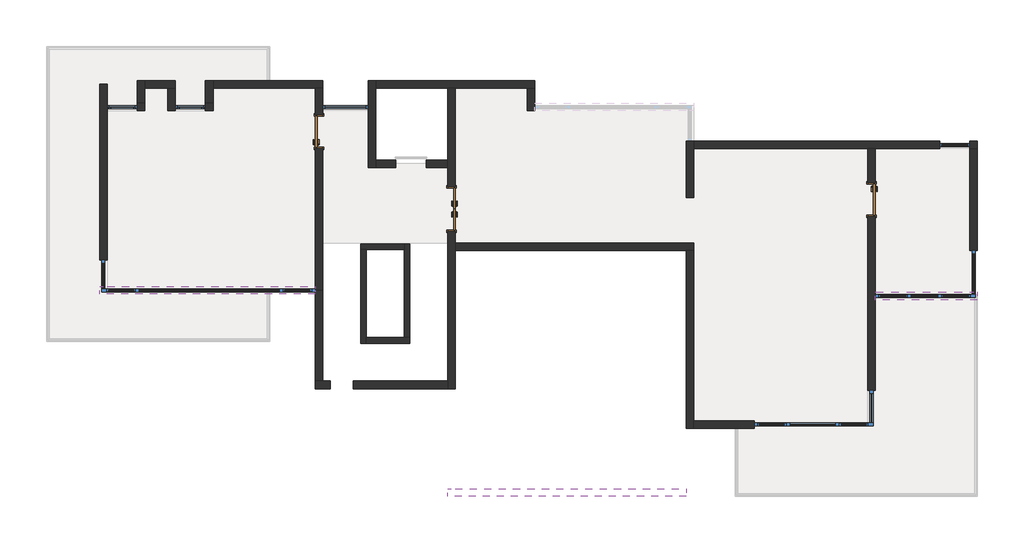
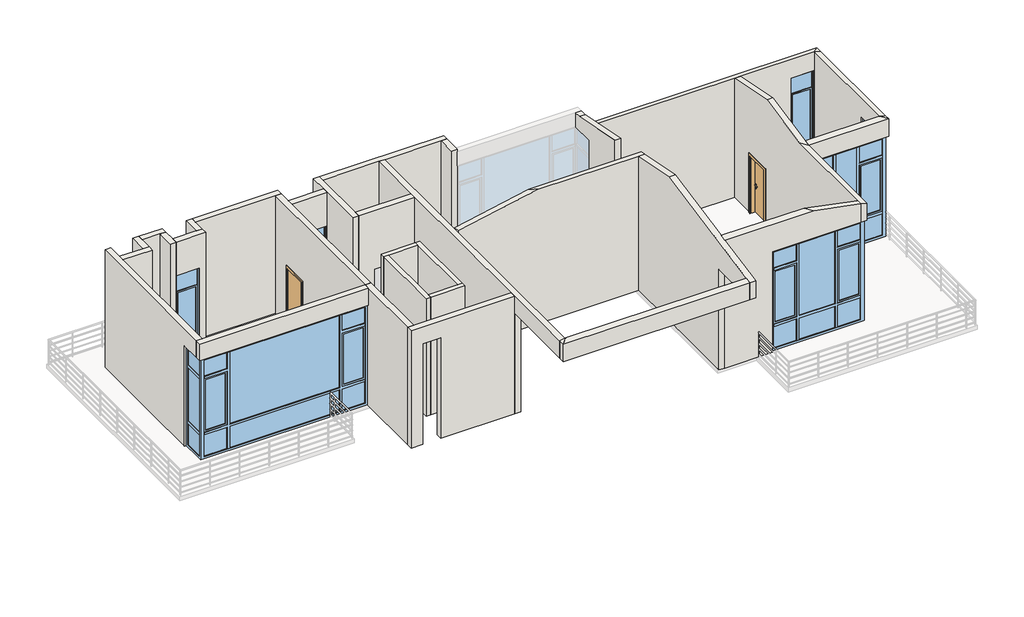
# One storey, part 1 of 3: 31 walls, 7 windows, 3 doors.
"""IFC4 building model written with IfcOpenShell, lengths in millimetres."""

from ifc_helpers import new_model, si_unit, frame, origin, place, context, project, spatial, polyline, outline, extrude, faceted_brep, transform, mapped, element, save
from components import m0921_482f5408, m1221_627b48e9, c0830_e6cf9a24, c0836_5eae927b, c1230_67e573e4, zjc_08_56_36_e4592b0d, zjc_26_12_36_c5fe944f, zjc_31_09_36_b1df3ee7

model = new_model("IFC4")

# Units and contexts
model_context = context("Model", 3, world=origin())
ifc_project = project(units=[si_unit("LENGTHUNIT", "METRE", prefix="MILLI")], contexts=[model_context])

# Site, building, storey
site = spatial("IfcSite", under=ifc_project)
building = spatial("IfcBuilding", under=site)
storey = spatial("IfcBuildingStorey", under=building, Name="二层", Elevation=3900.0)

# Doors
placement = place(None, origin())
m0921_shape = m0921_482f5408(model_context)
element("IfcDoor", 1, ObjectType="单嵌板木门 1 : M0921", at=placement, inside=storey, context=model_context, shape_type="MappedRepresentation", body=[
    mapped(m0921_shape, transform((12309.0524305, -2071.4172231, 3900.0), x_axis=(0.0, -1.0, 0.0), y_axis=(1.0, 0.0, 0.0), z_axis=(0.0, 0.0, 1.0))),
])
element("IfcDoor", 2, ObjectType="单嵌板木门 1 : M0921", at=placement, inside=storey, context=model_context, shape_type="MappedRepresentation", body=[
    mapped(m0921_shape, transform((-2290.9475695, -271.4172231, 3900.0), x_axis=(0.0, 1.0, 0.0), y_axis=(-1.0, 0.0, 0.0), z_axis=(0.0, 0.0, 1.0))),
])
m1221_shape = m1221_627b48e9(model_context)
element("IfcDoor", 3, ObjectType="双面嵌板木门 1 : M1221", at=placement, inside=storey, context=model_context, shape_type="MappedRepresentation", body=[
    mapped(m1221_shape, transform((1209.0524305, -2321.4172231, 3900.0), x_axis=(0.0, -1.0, 0.0), y_axis=(1.0, 0.0, 0.0), z_axis=(0.0, 0.0, 1.0))),
])

# Walls
element("IfcWall", 4, ObjectType="外墙", at=placement, inside=storey, context=model_context, shape_type="Brep", body=[
    faceted_brep([(12209.0524305, -8121.4172231, 7500.0), (12209.0524305, -8121.4172231, 8156.0336558), (12209.0524305, -7921.4172231, 8156.0336558), (12209.0524305, -4521.4172231, 8156.0336558), (12209.0524305, -2621.4172231, 8536.0359846), (12209.0524305, -721.4172231, 8156.0336558), (12209.0524305, -721.4172231, 3900.0), (12209.0524305, -1621.4172231, 3900.0), (12209.0524305, -1621.4172231, 6000.0), (12209.0524305, -2521.4172231, 6000.0), (12209.0524305, -2521.4172231, 3900.0), (12209.0524305, -7121.4172231, 3900.0), (12209.0524305, -7121.4172231, 7500.0), (12209.0524305, -7921.4172231, 7500.0), (12409.0524305, -8121.4172231, 8116.0334106), (12409.0524305, -8121.4172231, 7500.0), (12409.0524305, -7121.4172231, 7500.0), (12409.0524305, -7121.4172231, 3900.0), (12409.0524305, -2521.4172231, 3900.0), (12409.0524305, -2521.4172231, 6000.0), (12409.0524305, -1621.4172231, 6000.0), (12409.0524305, -1621.4172231, 3900.0), (12409.0524305, -721.4172231, 3900.0), (12409.0524305, -721.4172231, 8156.0336558), (12409.0524305, -2621.4172231, 8536.0359846), (12409.0524305, -4521.4172231, 8156.0336558), (12409.0524305, -4721.4172231, 8116.0334106)], [[[0, 1, 2, 3, 4, 5, 6, 7, 8, 9, 10, 11, 12, 13]], [[14, 15, 16, 17, 18, 19, 20, 21, 22, 23, 24, 25, 26]], [[1, 0, 15, 14]], [[6, 5, 23, 22]], [[5, 4, 24, 23]], [[4, 3, 26, 25, 24]], [[3, 2, 1, 14, 26]], [[6, 22, 21, 7]], [[17, 11, 10, 18]], [[12, 11, 17, 16]], [[0, 13, 12, 16, 15]], [[9, 19, 18, 10]], [[19, 9, 8, 20]], [[20, 8, 7, 21]]]),
])
element("IfcWall", 5, ObjectType="外墙", at=placement, inside=storey, context=model_context, shape_type="Brep", body=[
    faceted_brep([(12209.0524305, -7921.4172231, 7500.0), (9209.0524305, -7921.4172231, 7500.0), (9209.0524305, -7921.4172231, 3900.0), (7609.0524305, -7921.4172231, 3900.0), (7609.0524305, -7921.4172231, 8516.035862), (10409.0524305, -7921.4172231, 8516.035862), (12209.0524305, -7921.4172231, 8156.0336558), (12209.0524305, -8121.4172231, 7500.0), (12209.0524305, -8121.4172231, 8156.0336558), (10609.0524305, -8121.4172231, 8476.0356169), (7609.0524305, -8121.4172231, 8476.0356169), (7609.0524305, -8121.4172231, 7500.0), (7609.0524305, -8121.4172231, 3900.0), (9209.0524305, -8121.4172231, 3900.0), (9209.0524305, -8121.4172231, 7500.0)], [[[0, 1, 2, 3, 4, 5, 6]], [[7, 8, 9, 10, 11, 12, 13, 14]], [[0, 6, 8, 7]], [[6, 5, 9, 8]], [[5, 4, 10, 9]], [[3, 2, 13, 12]], [[1, 0, 7, 14]], [[2, 1, 14, 13]], [[3, 12, 11, 10, 4]]]),
])
element("IfcWall", 6, ObjectType="外墙", at=placement, inside=storey, context=model_context, shape_type="Brep", body=[
    faceted_brep([(7409.0524305, 278.5827769, 7500.0), (7409.0524305, -521.4172231, 7500.0), (7409.0524305, -521.4172231, 3900.0), (7409.0524305, -2021.4172231, 3900.0), (7409.0524305, -2021.4172231, 8416.0352492), (7409.0524305, 58.7848836, 7999.9922781), (7409.0524305, 278.5827769, 7999.9922781), (7609.0524305, 278.5827769, 7500.0), (7609.0524305, 278.5827769, 7999.9922781), (7609.0524305, 58.7848836, 7999.9922781), (7609.0524305, -521.4172231, 8116.0334106), (7609.0524305, -721.4172231, 8156.0336558), (7609.0524305, -2021.4172231, 8416.0352492), (7609.0524305, -2021.4172231, 3900.0), (7609.0524305, -721.4172231, 3900.0), (7609.0524305, -521.4172231, 3900.0), (7609.0524305, -521.4172231, 7500.0)], [[[0, 1, 2, 3, 4, 5, 6]], [[7, 8, 9, 10, 11, 12, 13, 14, 15, 16]], [[0, 6, 8, 7]], [[6, 5, 9, 8]], [[5, 4, 12, 11, 10, 9]], [[3, 2, 15, 14, 13]], [[4, 3, 13, 12]], [[1, 0, 7, 16]], [[2, 1, 16, 15]]]),
])
element("IfcWall", 7, ObjectType="外墙", at=placement, inside=storey, context=model_context, shape_type="Brep", body=[
    faceted_brep([(7409.0524305, -9721.4172231, 7500.0), (1309.0524305, -9721.4172231, 7500.0), (1109.0524305, -9721.4172231, 7500.0), (1109.0524305, -9721.4172231, 8100.0), (1109.0524305, -9721.4172231, 8116.0334106), (1309.0524305, -9721.4172231, 8156.0336558), (7409.0524305, -9721.4172231, 8156.0336558), (7409.0524305, -9921.4172231, 7500.0), (7409.0524305, -9921.4172231, 8116.0334106), (1109.0524305, -9921.4172231, 8116.0334106), (1109.0524305, -9921.4172231, 7500.0)], [[[0, 1, 2, 3, 4, 5, 6]], [[7, 8, 9, 10]], [[0, 6, 8, 7]], [[4, 3, 2, 10, 9]], [[6, 5, 9, 8]], [[5, 4, 9]], [[2, 1, 0, 7, 10]]]),
])
element("IfcWall", 8, ObjectType="外墙", at=placement, inside=storey, context=model_context, shape_type="Brep", body=[
    faceted_brep([(1309.0524305, 878.5827769, 8100.0), (1309.0524305, -9721.4172231, 8100.0), (1309.0524305, -9721.4172231, 7500.0), (1309.0524305, -7071.4172231, 7500.0), (1309.0524305, -7071.4172231, 3900.0), (1309.0524305, -3421.4172231, 3900.0), (1309.0524305, -3221.4172231, 3900.0), (1309.0524305, -2921.4172231, 3900.0), (1309.0524305, -2921.4172231, 6000.0), (1309.0524305, -1721.4172231, 6000.0), (1309.0524305, -1721.4172231, 3900.0), (1309.0524305, 878.5827769, 3900.0), (1109.0524305, -9721.4172231, 8100.0), (1109.0524305, -7071.4172231, 8100.0), (1109.0524305, -6871.4172231, 8100.0), (1109.0524305, -1221.4172231, 8100.0), (1109.0524305, -1021.4172231, 8100.0), (1109.0524305, 878.5827769, 8100.0), (1109.0524305, 878.5827769, 3900.0), (1109.0524305, -1021.4172231, 3900.0), (1109.0524305, -1221.4172231, 3900.0), (1109.0524305, -1721.4172231, 3900.0), (1109.0524305, -1721.4172231, 6000.0), (1109.0524305, -2921.4172231, 6000.0), (1109.0524305, -2921.4172231, 3900.0), (1109.0524305, -6871.4172231, 3900.0), (1109.0524305, -7071.4172231, 3900.0), (1109.0524305, -7071.4172231, 7500.0), (1109.0524305, -9721.4172231, 7500.0)], [[[0, 1, 2, 3, 4, 5, 6, 7, 8, 9, 10, 11]], [[12, 13, 14, 15, 16, 17, 18, 19, 20, 21, 22, 23, 24, 25, 26, 27, 28]], [[18, 11, 10, 21, 20, 19]], [[4, 26, 25, 24, 7, 6, 5]], [[1, 0, 17, 16, 15, 14, 13, 12]], [[1, 12, 28, 2]], [[0, 11, 18, 17]], [[3, 27, 26, 4]], [[27, 3, 2, 28]], [[23, 8, 7, 24]], [[8, 23, 22, 9]], [[9, 22, 21, 10]]]),
])
element("IfcWall", 9, ObjectType="外墙", at=placement, inside=storey, context=model_context, shape_type="Brep", body=[
    faceted_brep([(-2390.9475695, -6871.4172231, 8100.0), (-2190.9475695, -6871.4172231, 8100.0), (1109.0524305, -6871.4172231, 8100.0), (1109.0524305, -6871.4172231, 3900.0), (-1390.9475695, -6871.4172231, 3900.0), (-1390.9475695, -6871.4172231, 7500.0), (-1990.9475695, -6871.4172231, 7500.0), (-1990.9475695, -6871.4172231, 3900.0), (-2190.9475695, -6871.4172231, 3900.0), (-2390.9475695, -6871.4172231, 3900.0), (1109.0524305, -7071.4172231, 8100.0), (-2390.9475695, -7071.4172231, 8100.0), (-2390.9475695, -7071.4172231, 3900.0), (-1990.9475695, -7071.4172231, 3900.0), (-1990.9475695, -7071.4172231, 7500.0), (-1390.9475695, -7071.4172231, 7500.0), (-1390.9475695, -7071.4172231, 3900.0), (1109.0524305, -7071.4172231, 3900.0)], [[[0, 1, 2, 3, 4, 5, 6, 7, 8, 9]], [[10, 11, 12, 13, 14, 15, 16, 17]], [[12, 9, 8, 7, 13]], [[3, 17, 16, 4]], [[2, 1, 0, 11, 10]], [[0, 9, 12, 11]], [[3, 2, 10, 17]], [[6, 14, 13, 7]], [[14, 6, 5, 15]], [[15, 5, 4, 16]]]),
])
element("IfcWall", 10, ObjectType="外墙", at=placement, inside=storey, context=model_context, shape_type="Brep", body=[
    faceted_brep([(-2190.9475695, -6871.4172231, 3900.0), (-2190.9475695, -4471.4172231, 3900.0), (-2190.9475695, -4471.4172231, 7500.0), (-2190.9475695, -4371.4172231, 7500.0), (-2190.9475695, -4371.4172231, 8100.0), (-2190.9475695, -6871.4172231, 8100.0), (-2390.9475695, -6871.4172231, 3900.0), (-2390.9475695, -6871.4172231, 8100.0), (-2390.9475695, -4571.4172231, 8100.0), (-2390.9475695, -4371.4172231, 8100.0), (-2390.9475695, -4371.4172231, 7500.0), (-2390.9475695, -4471.4172231, 7500.0), (-2390.9475695, -4471.4172231, 3900.0)], [[[0, 1, 2, 3, 4, 5]], [[6, 7, 8, 9, 10, 11, 12]], [[1, 0, 6, 12]], [[5, 4, 9, 8, 7]], [[0, 5, 7, 6]], [[2, 1, 12, 11]], [[10, 3, 2, 11]], [[4, 3, 10, 9]]]),
])
element("IfcWall", 11, ObjectType="外墙", at=placement, inside=storey, context=model_context, shape_type="Brep", body=[
    faceted_brep([(-2390.9475695, -4371.4172231, 7500.0), (-7890.9475695, -4371.4172231, 7500.0), (-8090.9475695, -4371.4172231, 7500.0), (-8090.9475695, -4371.4172231, 8100.0), (-7890.9475695, -4371.4172231, 8100.0), (-2390.9475695, -4371.4172231, 8100.0), (-2390.9475695, -4571.4172231, 7500.0), (-2390.9475695, -4571.4172231, 8100.0), (-8090.9475695, -4571.4172231, 8100.0), (-8090.9475695, -4571.4172231, 7500.0), (-2390.9475695, -4471.4172231, 7500.0)], [[[0, 1, 2, 3, 4, 5]], [[6, 7, 8, 9]], [[0, 5, 7, 6, 10]], [[3, 2, 9, 8]], [[5, 4, 3, 8, 7]], [[2, 1, 0, 10, 6, 9]]]),
])
element("IfcWall", 12, ObjectType="外墙", at=placement, inside=storey, context=model_context, shape_type="Brep", body=[
    faceted_brep([(-7890.9475695, -4371.4172231, 7500.0), (-7890.9475695, -3671.4172231, 7500.0), (-7890.9475695, -3671.4172231, 3900.0), (-7890.9475695, 278.5827769, 3900.0), (-7890.9475695, 478.5827769, 3900.0), (-7890.9475695, 978.5827769, 3900.0), (-7890.9475695, 978.5827769, 8100.0), (-7890.9475695, 478.5827769, 8100.0), (-7890.9475695, 278.5827769, 8100.0), (-7890.9475695, -4371.4172231, 8100.0), (-8090.9475695, -4371.4172231, 7500.0), (-8090.9475695, -4371.4172231, 8100.0), (-8090.9475695, 978.5827769, 8100.0), (-8090.9475695, 978.5827769, 3900.0), (-8090.9475695, -3671.4172231, 3900.0), (-8090.9475695, -3671.4172231, 7500.0)], [[[0, 1, 2, 3, 4, 5, 6, 7, 8, 9]], [[10, 11, 12, 13, 14, 15]], [[0, 9, 11, 10]], [[5, 4, 3, 2, 14, 13]], [[6, 5, 13, 12]], [[9, 8, 7, 6, 12, 11]], [[1, 0, 10, 15]], [[2, 1, 15, 14]]]),
])
element("IfcWall", 13, ObjectType="外墙", at=placement, inside=storey, context=model_context, shape_type="Brep", body=[
    faceted_brep([(-6890.9475695, 278.5827769, 8100.0), (-7890.9475695, 278.5827769, 8100.0), (-7890.9475695, 278.5827769, 3900.0), (-7890.6982006, 278.5827769, 3900.0), (-7890.6982006, 278.5827769, 6900.0), (-7090.6982006, 278.5827769, 6900.0), (-7090.6982006, 278.5827769, 3900.0), (-6890.9475695, 278.5827769, 3900.0), (-7890.9475695, 478.5827769, 8100.0), (-7090.9475695, 478.5827769, 8100.0), (-6890.9475695, 478.5827769, 8100.0), (-6890.9475695, 478.5827769, 3900.0), (-7090.6982006, 478.5827769, 3900.0), (-7090.6982006, 478.5827769, 6900.0), (-7890.6982006, 478.5827769, 6900.0), (-7890.6982006, 478.5827769, 3900.0), (-7890.9475695, 478.5827769, 3900.0)], [[[0, 1, 2, 3, 4, 5, 6, 7]], [[8, 9, 10, 11, 12, 13, 14, 15, 16]], [[2, 16, 15, 3]], [[11, 7, 6, 12]], [[1, 0, 10, 9, 8]], [[2, 1, 8, 16]], [[0, 7, 11, 10]], [[14, 4, 3, 15]], [[4, 14, 13, 5]], [[5, 13, 12, 6]]]),
])
element("IfcWall", 14, ObjectType="外墙", at=placement, inside=storey, context=model_context, shape_type="Brep", body=[
    faceted_brep([(-6890.9475695, 478.5827769, 3900.0), (-6890.9475695, 878.5827769, 3900.0), (-6890.9475695, 1078.5827769, 3900.0), (-6890.9475695, 1078.5827769, 8100.0), (-6890.9475695, 878.5827769, 8100.0), (-6890.9475695, 478.5827769, 8100.0), (-7090.9475695, 478.5827769, 3900.0), (-7090.9475695, 478.5827769, 8100.0), (-7090.9475695, 1078.5827769, 8100.0), (-7090.9475695, 1078.5827769, 3900.0)], [[[0, 1, 2, 3, 4, 5]], [[6, 7, 8, 9]], [[2, 1, 0, 6, 9]], [[5, 4, 3, 8, 7]], [[0, 5, 7, 6]], [[3, 2, 9, 8]]]),
])
element("IfcWall", 15, ObjectType="外墙", at=placement, inside=storey, context=model_context, shape_type="Brep", body=[
    faceted_brep([(-6890.9475695, 878.5827769, 3900.0), (-6290.9475695, 878.5827769, 3900.0), (-6090.9475695, 878.5827769, 3900.0), (-6090.9475695, 878.5827769, 8100.0), (-6290.9475695, 878.5827769, 8100.0), (-6890.9475695, 878.5827769, 8100.0), (-6890.9475695, 1078.5827769, 3900.0), (-6890.9475695, 1078.5827769, 8100.0), (-6090.9475695, 1078.5827769, 8100.0), (-6090.9475695, 1078.5827769, 3900.0)], [[[0, 1, 2, 3, 4, 5]], [[6, 7, 8, 9]], [[2, 1, 0, 6, 9]], [[5, 4, 3, 8, 7]], [[0, 5, 7, 6]], [[3, 2, 9, 8]]]),
])
element("IfcWall", 16, ObjectType="外墙", at=placement, inside=storey, context=model_context, shape_type="Brep", body=[
    faceted_brep([(-6290.9475695, 878.5827769, 3900.0), (-6290.9475695, 278.5827769, 3900.0), (-6290.9475695, 278.5827769, 8100.0), (-6290.9475695, 878.5827769, 8100.0), (-6090.9475695, 878.5827769, 3900.0), (-6090.9475695, 878.5827769, 8100.0), (-6090.9475695, 478.5827769, 8100.0), (-6090.9475695, 278.5827769, 8100.0), (-6090.9475695, 278.5827769, 3900.0), (-6090.9475695, 478.5827769, 3900.0)], [[[0, 1, 2, 3]], [[4, 5, 6, 7, 8, 9]], [[1, 0, 4, 9, 8]], [[3, 2, 7, 6, 5]], [[0, 3, 5, 4]], [[2, 1, 8, 7]]]),
])
element("IfcWall", 17, ObjectType="外墙", at=placement, inside=storey, context=model_context, shape_type="Brep", body=[
    faceted_brep([(-5090.9475695, 278.5827769, 8100.0), (-6090.9475695, 278.5827769, 8100.0), (-6090.9475695, 278.5827769, 3900.0), (-6090.6982006, 278.5827769, 3900.0), (-6090.6982006, 278.5827769, 6900.0), (-5290.6982006, 278.5827769, 6900.0), (-5290.6982006, 278.5827769, 3900.0), (-5090.9475695, 278.5827769, 3900.0), (-6090.9475695, 478.5827769, 8100.0), (-5290.9475695, 478.5827769, 8100.0), (-5090.9475695, 478.5827769, 8100.0), (-5090.9475695, 478.5827769, 3900.0), (-5290.6982006, 478.5827769, 3900.0), (-5290.6982006, 478.5827769, 6900.0), (-6090.6982006, 478.5827769, 6900.0), (-6090.6982006, 478.5827769, 3900.0), (-6090.9475695, 478.5827769, 3900.0)], [[[0, 1, 2, 3, 4, 5, 6, 7]], [[8, 9, 10, 11, 12, 13, 14, 15, 16]], [[2, 16, 15, 3]], [[11, 7, 6, 12]], [[1, 0, 10, 9, 8]], [[2, 1, 8, 16]], [[0, 7, 11, 10]], [[14, 4, 3, 15]], [[4, 14, 13, 5]], [[5, 13, 12, 6]]]),
])
element("IfcWall", 18, ObjectType="外墙", at=placement, inside=storey, context=model_context, shape_type="Brep", body=[
    faceted_brep([(-5090.9475695, 478.5827769, 3900.0), (-5090.9475695, 878.5827769, 3900.0), (-5090.9475695, 1078.5827769, 3900.0), (-5090.9475695, 1078.5827769, 8100.0), (-5090.9475695, 878.5827769, 8100.0), (-5090.9475695, 478.5827769, 8100.0), (-5290.9475695, 478.5827769, 3900.0), (-5290.9475695, 478.5827769, 8100.0), (-5290.9475695, 1078.5827769, 8100.0), (-5290.9475695, 1078.5827769, 3900.0)], [[[0, 1, 2, 3, 4, 5]], [[6, 7, 8, 9]], [[2, 1, 0, 6, 9]], [[5, 4, 3, 8, 7]], [[0, 5, 7, 6]], [[3, 2, 9, 8]]]),
])
element("IfcWall", 19, ObjectType="外墙", at=placement, inside=storey, context=model_context, shape_type="Brep", body=[
    faceted_brep([(-5090.9475695, 878.5827769, 3900.0), (-2390.9475695, 878.5827769, 3900.0), (-2190.9475695, 878.5827769, 3900.0), (-2190.9475695, 878.5827769, 8100.0), (-2390.9475695, 878.5827769, 8100.0), (-5090.9475695, 878.5827769, 8100.0), (-5090.9475695, 1078.5827769, 3900.0), (-5090.9475695, 1078.5827769, 8100.0), (-2190.9475695, 1078.5827769, 8100.0), (-2190.9475695, 1078.5827769, 3900.0)], [[[0, 1, 2, 3, 4, 5]], [[6, 7, 8, 9]], [[2, 1, 0, 6, 9]], [[5, 4, 3, 8, 7]], [[0, 5, 7, 6]], [[3, 2, 9, 8]]]),
])
element("IfcWall", 20, ObjectType="外墙", at=placement, inside=storey, context=model_context, shape_type="Brep", body=[
    faceted_brep([(-2390.9475695, -4371.4172231, 8100.0), (-2390.9475695, 878.5827769, 8100.0), (-2390.9475695, 878.5827769, 3900.0), (-2390.9475695, 178.5827769, 3900.0), (-2390.9475695, 178.5827769, 6000.0), (-2390.9475695, -721.4172231, 6000.0), (-2390.9475695, -721.4172231, 3900.0), (-2390.9475695, -4471.4172231, 3900.0), (-2390.9475695, -4471.4172231, 7500.0), (-2390.9475695, -4371.4172231, 7500.0), (-2190.9475695, 878.5827769, 8100.0), (-2190.9475695, 478.5827769, 8100.0), (-2190.9475695, 278.5827769, 8100.0), (-2190.9475695, -4371.4172231, 8100.0), (-2190.9475695, -4371.4172231, 7500.0), (-2190.9475695, -4471.4172231, 7500.0), (-2190.9475695, -4471.4172231, 3900.0), (-2190.9475695, -721.4172231, 3900.0), (-2190.9475695, -721.4172231, 6000.0), (-2190.9475695, 178.5827769, 6000.0), (-2190.9475695, 178.5827769, 3900.0), (-2190.9475695, 278.5827769, 3900.0), (-2190.9475695, 478.5827769, 3900.0), (-2190.9475695, 878.5827769, 3900.0)], [[[0, 1, 2, 3, 4, 5, 6, 7, 8, 9]], [[10, 11, 12, 13, 14, 15, 16, 17, 18, 19, 20, 21, 22, 23]], [[2, 23, 22, 21, 20, 3]], [[16, 7, 6, 17]], [[1, 0, 13, 12, 11, 10]], [[2, 1, 10, 23]], [[7, 16, 15, 8]], [[9, 8, 15, 14]], [[13, 0, 9, 14]], [[19, 4, 3, 20]], [[4, 19, 18, 5]], [[5, 18, 17, 6]]]),
])
element("IfcWall", 21, ObjectType="外墙", at=placement, inside=storey, context=model_context, shape_type="SweptSolid", body=[
    extrude(outline(polyline([(8100.0, -990.9475695), (8100.0, -2190.9475695), (3900.0, -2190.9475695), (3900.0, -2188.2749545), (6900.0, -2188.2749545), (6900.0, -990.9475695), (8100.0, -990.9475695)])), frame((0.0, 278.5827769, 0.0), z_axis=(0.0, 1.0, 0.0), x_axis=(0.0, 0.0, 1.0)), (0.0, 0.0, 1.0), 200.0),
])
element("IfcWall", 22, ObjectType="外墙", at=placement, inside=storey, context=model_context, shape_type="Brep", body=[
    faceted_brep([(-790.9475695, -1221.4172231, 3900.0), (-790.9475695, -1021.4172231, 3900.0), (-790.9475695, 878.5827769, 3900.0), (-790.9475695, 1078.5827769, 3900.0), (-790.9475695, 1078.5827769, 8100.0), (-790.9475695, 878.5827769, 8100.0), (-790.9475695, -1021.4172231, 8100.0), (-790.9475695, -1221.4172231, 8100.0), (-990.9475695, -1221.4172231, 8100.0), (-990.9475695, 278.5827769, 8100.0), (-990.9475695, 478.5827769, 8100.0), (-990.9475695, 1078.5827769, 8100.0), (-990.9475695, 1078.5827769, 3900.0), (-990.9475695, 478.5827769, 3900.0), (-990.9475695, 478.5827769, 6900.0), (-990.9475695, 278.5827769, 6900.0), (-990.9475695, 278.5827769, 3900.0), (-990.9475695, -1221.4172231, 3900.0), (-988.2749545, 278.5827769, 3900.0), (-988.2749545, 478.5827769, 3900.0), (-988.2749545, 478.5827769, 6900.0), (-988.2749545, 278.5827769, 6900.0)], [[[0, 1, 2, 3, 4, 5, 6, 7]], [[8, 9, 10, 11, 12, 13, 14, 15, 16, 17]], [[3, 2, 1, 0, 17, 16, 18, 19, 13, 12]], [[7, 6, 5, 4, 11, 10, 9, 8]], [[4, 3, 12, 11]], [[19, 20, 14, 13]], [[21, 18, 16, 15]], [[20, 21, 15, 14]], [[20, 19, 18, 21]], [[0, 7, 8, 17]]]),
])
element("IfcWall", 23, ObjectType="外墙", at=placement, inside=storey, context=model_context, shape_type="Brep", body=[
    faceted_brep([(-790.9475695, 878.5827769, 3900.0), (1109.0524305, 878.5827769, 3900.0), (1309.0524305, 878.5827769, 3900.0), (3209.0524305, 878.5827769, 3900.0), (3409.0524305, 878.5827769, 3900.0), (3409.0524305, 878.5827769, 8100.0), (3209.0524305, 878.5827769, 8100.0), (1309.0524305, 878.5827769, 8100.0), (1109.0524305, 878.5827769, 8100.0), (-790.9475695, 878.5827769, 8100.0), (-790.9475695, 1078.5827769, 3900.0), (-790.9475695, 1078.5827769, 8100.0), (3409.0524305, 1078.5827769, 8100.0), (3409.0524305, 1078.5827769, 3900.0)], [[[0, 1, 2, 3, 4, 5, 6, 7, 8, 9]], [[10, 11, 12, 13]], [[4, 3, 2, 1, 0, 10, 13]], [[9, 8, 7, 6, 5, 12, 11]], [[0, 9, 11, 10]], [[5, 4, 13, 12]]]),
])
element("IfcWall", 24, ObjectType="外墙", at=placement, inside=storey, context=model_context, shape_type="Brep", body=[
    faceted_brep([(3209.0524305, 878.5827769, 3900.0), (3209.0524305, 278.5827769, 3900.0), (3209.0524305, 278.5827769, 8100.0), (3209.0524305, 878.5827769, 8100.0), (3409.0524305, 878.5827769, 3900.0), (3409.0524305, 878.5827769, 8100.0), (3409.0524305, 278.5827769, 8100.0), (3409.0524305, 278.5827769, 7999.9922781), (3409.0524305, 278.5827769, 7500.0), (3409.0524305, 278.5827769, 3900.0)], [[[0, 1, 2, 3]], [[4, 5, 6, 7, 8, 9]], [[1, 0, 4, 9]], [[3, 2, 6, 5]], [[0, 3, 5, 4]], [[2, 1, 9, 8, 7, 6]]]),
])
element("IfcWall", 25, ObjectType="外墙", at=placement, inside=storey, context=model_context, shape_type="Brep", body=[
    faceted_brep([(15109.0524305, -721.4172231, 3900.0), (15109.0524305, -721.4172231, 8116.0334106), (14909.0524305, -721.4172231, 8156.0336558), (12409.0524305, -721.4172231, 8156.0336558), (12209.0524305, -721.4172231, 8156.0336558), (7609.0524305, -721.4172231, 8156.0336558), (7609.0524305, -721.4172231, 3900.0), (12209.0524305, -721.4172231, 3900.0), (12409.0524305, -721.4172231, 3900.0), (14109.0524305, -721.4172231, 3900.0), (14109.0524305, -721.4172231, 7500.0), (14909.0524305, -721.4172231, 7500.0), (14909.0524305, -721.4172231, 3900.0), (7609.0524305, -521.4172231, 8116.0334106), (15109.0524305, -521.4172231, 8116.0334106), (15109.0524305, -521.4172231, 3900.0), (14909.0524305, -521.4172231, 3900.0), (14909.0524305, -521.4172231, 7500.0), (14109.0524305, -521.4172231, 7500.0), (14109.0524305, -521.4172231, 3900.0), (7609.0524305, -521.4172231, 3900.0), (7609.0524305, -521.4172231, 7500.0)], [[[0, 1, 2, 3, 4, 5, 6, 7, 8, 9, 10, 11, 12]], [[13, 14, 15, 16, 17, 18, 19, 20, 21]], [[15, 0, 12, 16]], [[6, 20, 19, 9, 8, 7]], [[1, 0, 15, 14]], [[14, 13, 5, 4, 3, 2]], [[1, 14, 2]], [[20, 6, 5, 13, 21]], [[18, 10, 9, 19]], [[10, 18, 17, 11]], [[11, 17, 16, 12]]]),
])
element("IfcWall", 26, ObjectType="内墙-楼梯间", at=placement, inside=storey, context=model_context, shape_type="Brep", body=[
    faceted_brep([(-1190.9475695, -3396.4172231, 3900.0), (-1040.9475695, -3396.4172231, 3900.0), (-40.9475695, -3396.4172231, 3900.0), (-40.9475695, -3396.4172231, 8100.0), (-1040.9475695, -3396.4172231, 8100.0), (-1190.9475695, -3396.4172231, 8100.0), (-1190.9475695, -3246.4172231, 3900.0), (-1190.9475695, -3246.4172231, 8100.0), (-40.9475695, -3246.4172231, 8100.0), (-40.9475695, -3246.4172231, 3900.0)], [[[0, 1, 2, 3, 4, 5]], [[6, 7, 8, 9]], [[2, 1, 0, 6, 9]], [[5, 4, 3, 8, 7]], [[0, 5, 7, 6]], [[3, 2, 9, 8]]]),
])
element("IfcWall", 27, ObjectType="内墙-楼梯间", at=placement, inside=storey, context=model_context, shape_type="Brep", body=[
    faceted_brep([(-1040.9475695, -5871.4172231, 3900.0), (-1040.9475695, -5721.4172231, 3900.0), (-1040.9475695, -3396.4172231, 3900.0), (-1040.9475695, -3396.4172231, 8100.0), (-1040.9475695, -5721.4172231, 8100.0), (-1040.9475695, -5871.4172231, 8100.0), (-1190.9475695, -5871.4172231, 3900.0), (-1190.9475695, -5871.4172231, 8100.0), (-1190.9475695, -3396.4172231, 8100.0), (-1190.9475695, -3396.4172231, 3900.0)], [[[0, 1, 2, 3, 4, 5]], [[6, 7, 8, 9]], [[2, 1, 0, 6, 9]], [[5, 4, 3, 8, 7]], [[0, 5, 7, 6]], [[3, 2, 9, 8]]]),
])
element("IfcWall", 28, ObjectType="内墙-楼梯间", at=placement, inside=storey, context=model_context, shape_type="Brep", body=[
    faceted_brep([(109.0524305, -5721.4172231, 3900.0), (-40.9475695, -5721.4172231, 3900.0), (-1040.9475695, -5721.4172231, 3900.0), (-1040.9475695, -5721.4172231, 8100.0), (-40.9475695, -5721.4172231, 8100.0), (109.0524305, -5721.4172231, 8100.0), (109.0524305, -5871.4172231, 3900.0), (109.0524305, -5871.4172231, 8100.0), (-1040.9475695, -5871.4172231, 8100.0), (-1040.9475695, -5871.4172231, 3900.0)], [[[0, 1, 2, 3, 4, 5]], [[6, 7, 8, 9]], [[2, 1, 0, 6, 9]], [[5, 4, 3, 8, 7]], [[0, 5, 7, 6]], [[3, 2, 9, 8]]]),
])
element("IfcWall", 29, ObjectType="内墙-楼梯间", at=placement, inside=storey, context=model_context, shape_type="Brep", body=[
    faceted_brep([(-40.9475695, -3246.4172231, 3900.0), (-40.9475695, -3396.4172231, 3900.0), (-40.9475695, -5721.4172231, 3900.0), (-40.9475695, -5721.4172231, 8100.0), (-40.9475695, -3396.4172231, 8100.0), (-40.9475695, -3246.4172231, 8100.0), (109.0524305, -3246.4172231, 3900.0), (109.0524305, -3246.4172231, 8100.0), (109.0524305, -5721.4172231, 8100.0), (109.0524305, -5721.4172231, 3900.0)], [[[0, 1, 2, 3, 4, 5]], [[6, 7, 8, 9]], [[2, 1, 0, 6, 9]], [[5, 4, 3, 8, 7]], [[0, 5, 7, 6]], [[3, 2, 9, 8]]]),
])
element("IfcWall", 30, ObjectType="外墙", at=placement, inside=storey, context=model_context, shape_type="Brep", body=[
    faceted_brep([(14909.0524305, -721.4172231, 3900.0), (14909.0524305, -3421.4172231, 3900.0), (14909.0524305, -3421.4172231, 7500.0), (14909.0524305, -4521.4172231, 7500.0), (14909.0524305, -4521.4172231, 8156.0336558), (14909.0524305, -721.4172231, 8156.0336558), (15109.0524305, -721.4172231, 3900.0), (15109.0524305, -721.4172231, 8116.0334106), (15109.0524305, -4521.4172231, 8116.0334106), (15109.0524305, -4521.4172231, 7500.0), (15109.0524305, -3421.4172231, 7500.0), (15109.0524305, -3421.4172231, 3900.0)], [[[0, 1, 2, 3, 4, 5]], [[6, 7, 8, 9, 10, 11]], [[0, 5, 7, 6]], [[4, 3, 9, 8]], [[5, 4, 8, 7]], [[1, 0, 6, 11]], [[2, 1, 11, 10]], [[3, 2, 10, 9]]]),
])
element("IfcWall", 31, ObjectType="外墙", at=placement, inside=storey, context=model_context, shape_type="Brep", body=[
    faceted_brep([(1309.0524305, -3421.4172231, 3900.0), (7409.0524305, -3421.4172231, 3900.0), (7609.0524305, -3421.4172231, 3900.0), (7609.0524305, -3421.4172231, 8696.0369651), (7409.0524305, -3421.4172231, 8696.0369651), (4009.0524305, -3421.4172231, 8696.0369651), (1309.0524305, -3421.4172231, 8156.0336558), (1309.0524305, -3221.4172231, 3900.0), (1309.0524305, -3221.4172231, 8156.0336558), (3809.0524305, -3221.4172231, 8656.03672), (7609.0524305, -3221.4172231, 8656.03672), (7609.0524305, -3221.4172231, 3900.0)], [[[0, 1, 2, 3, 4, 5, 6]], [[7, 8, 9, 10, 11]], [[2, 1, 0, 7, 11]], [[0, 6, 8, 7]], [[3, 2, 11, 10]], [[6, 5, 9, 8]], [[5, 4, 3, 10, 9]]]),
])
element("IfcWall", 32, ObjectType="外墙", at=placement, inside=storey, context=model_context, shape_type="Brep", body=[
    faceted_brep([(7409.0524305, -3421.4172231, 3900.0), (7409.0524305, -8121.4172231, 3900.0), (7409.0524305, -8121.4172231, 7500.0), (7409.0524305, -9721.4172231, 7500.0), (7409.0524305, -9821.4172231, 7500.0), (7409.0524305, -9921.4172231, 7500.0), (7409.0524305, -9921.4172231, 8116.0334106), (7409.0524305, -9721.4172231, 8156.0336558), (7409.0524305, -5221.4172231, 9056.0391714), (7409.0524305, -3421.4172231, 8696.0369651), (7609.0524305, -8121.4172231, 3900.0), (7609.0524305, -7921.4172231, 3900.0), (7609.0524305, -3421.4172231, 3900.0), (7609.0524305, -3421.4172231, 8696.0369651), (7609.0524305, -5221.4172231, 9056.0391714), (7609.0524305, -7921.4172231, 8516.035862), (7609.0524305, -8121.4172231, 8476.0356169), (7609.0524305, -9921.4172231, 8116.0334106), (7609.0524305, -9921.4172231, 7500.0), (7609.0524305, -9821.4172231, 7500.0), (7609.0524305, -8121.4172231, 7500.0)], [[[0, 1, 2, 3, 4, 5, 6, 7, 8, 9]], [[10, 11, 12, 13, 14, 15, 16, 17, 18, 19, 20]], [[6, 5, 18, 17]], [[0, 9, 13, 12]], [[9, 8, 14, 13]], [[8, 7, 6, 17, 16, 15, 14]], [[1, 0, 12, 11, 10]], [[18, 5, 4, 3, 2, 20, 19]], [[2, 1, 10, 20]]]),
])
element("IfcWall", 33, ObjectType="外墙", at=placement, inside=storey, context=model_context, shape_type="Brep", body=[
    faceted_brep([(15109.0524305, -4521.4172231, 7500.0), (14909.0524305, -4521.4172231, 7500.0), (12409.0524305, -4521.4172231, 7500.0), (12409.0524305, -4521.4172231, 8156.0336558), (14909.0524305, -4521.4172231, 8156.0336558), (15109.0524305, -4521.4172231, 8116.0334106), (15109.0524305, -4721.4172231, 7500.0), (15109.0524305, -4721.4172231, 8116.0334106), (12409.0524305, -4721.4172231, 8116.0334106), (12409.0524305, -4721.4172231, 7500.0)], [[[0, 1, 2, 3, 4, 5]], [[6, 7, 8, 9]], [[3, 2, 9, 8]], [[0, 5, 7, 6]], [[5, 4, 7]], [[4, 3, 8, 7]], [[2, 1, 0, 6, 9]]]),
])
element("IfcWall", 34, ObjectType="外墙", at=placement, inside=storey, context=model_context, shape_type="SweptSolid", body=[
    extrude(outline(polyline([(8100.0, 1109.0524305), (8100.0, -790.9475695), (3900.0, -790.9475695), (3900.0, -260.9475695), (6000.0, -260.9475695), (6000.0, 539.0524305), (3900.0, 539.0524305), (3900.0, 1109.0524305), (8100.0, 1109.0524305)])), frame((0.0, -1221.4172231, 0.0), z_axis=(0.0, 1.0, 0.0), x_axis=(0.0, 0.0, 1.0)), (0.0, 0.0, 1.0), 200.0),
])

# Windows
c0830_shape = c0830_e6cf9a24(model_context)
element("IfcWindow", 35, ObjectType="组合窗 - 双层单列(固定+推拉) - 副本 : C0830", at=placement, inside=storey, context=model_context, shape_type="MappedRepresentation", body=[
    mapped(c0830_shape, transform((-7490.6982006, 378.5827769, 3000.0), x_axis=(1.0, 0.0, 0.0), y_axis=(0.0, 1.0, 0.0), z_axis=(0.0, 0.0, 1.0))),
])
element("IfcWindow", 36, ObjectType="组合窗 - 双层单列(固定+推拉) - 副本 : C0830", at=placement, inside=storey, context=model_context, shape_type="MappedRepresentation", body=[
    mapped(c0830_shape, transform((-5690.6982006, 378.5827769, 3000.0), x_axis=(1.0, 0.0, 0.0), y_axis=(0.0, 1.0, 0.0), z_axis=(0.0, 0.0, 1.0))),
])
c0836_shape = c0836_5eae927b(model_context)
element("IfcWindow", 37, ObjectType="组合窗 - 双层单列(固定+推拉) - 副本 : C0836", at=placement, inside=storey, context=model_context, shape_type="MappedRepresentation", body=[
    mapped(c0836_shape, transform((14509.0524305, -621.4172231, 3000.0), x_axis=(1.0, 0.0, 0.0), y_axis=(0.0, 1.0, 0.0), z_axis=(0.0, 0.0, 1.0))),
])
c1230_shape = c1230_67e573e4(model_context)
element("IfcWindow", 38, ObjectType="双层单列 : C1230", at=placement, inside=storey, context=model_context, shape_type="MappedRepresentation", body=[
    mapped(c1230_shape, transform((-1588.2749545, 378.5827769, 3000.0), x_axis=(1.0, 0.0, 0.0), y_axis=(0.0, 1.0, 0.0), z_axis=(0.0, 0.0, 1.0))),
])
zjc_08_56_36_shape = zjc_08_56_36_e4592b0d(model_context)
element("IfcWindow", 39, ObjectType="转角窗 安荣伟 : ZJC(08+56)36", at=placement, inside=storey, context=model_context, shape_type="MappedRepresentation", body=[
    mapped(zjc_08_56_36_shape, transform((-7990.9475695, -4471.4172231, 3900.0), x_axis=(-1.0, 0.0, 0.0), y_axis=(0.0, -1.0, 0.0), z_axis=(0.0, 0.0, 1.0))),
])
zjc_26_12_36_shape = zjc_26_12_36_c5fe944f(model_context)
element("IfcWindow", 40, ObjectType="转角窗 安荣伟 : ZJC(26+12)36", at=placement, inside=storey, context=model_context, shape_type="MappedRepresentation", body=[
    mapped(zjc_26_12_36_shape, transform((15009.0524305, -4621.4172231, 3900.0), x_axis=(1.0, 0.0, 0.0), y_axis=(0.0, 1.0, 0.0), z_axis=(0.0, 0.0, 1.0))),
])
zjc_31_09_36_shape = zjc_31_09_36_b1df3ee7(model_context)
element("IfcWindow", 41, ObjectType="转角窗 安荣伟 : ZJC(31+09)36", at=placement, inside=storey, context=model_context, shape_type="MappedRepresentation", body=[
    mapped(zjc_31_09_36_shape, transform((12309.0524305, -8021.4172231, 3900.0), x_axis=(1.0, 0.0, 0.0), y_axis=(0.0, 1.0, 0.0), z_axis=(0.0, 0.0, 1.0))),
])

save(model, "model.ifc")
